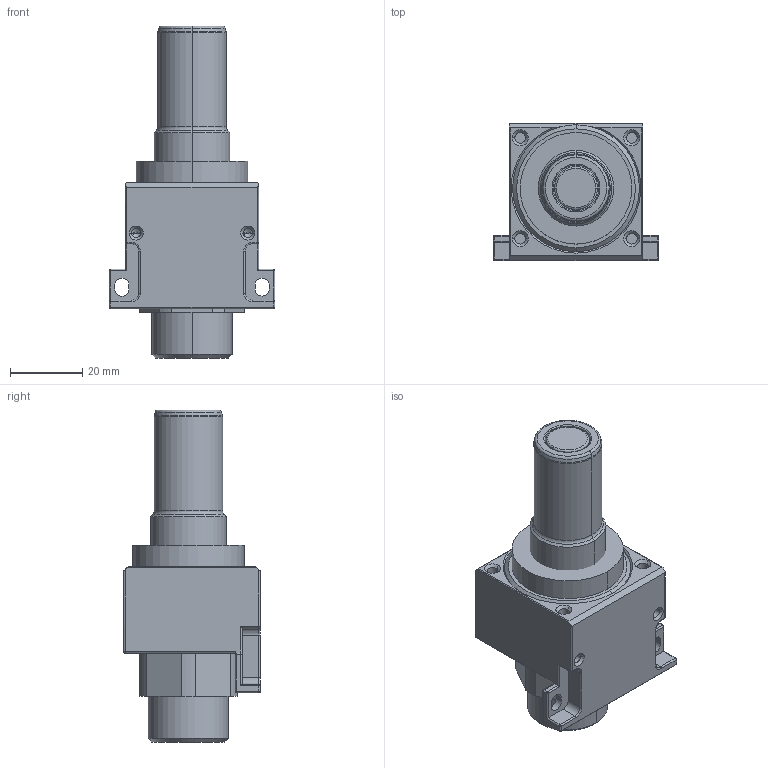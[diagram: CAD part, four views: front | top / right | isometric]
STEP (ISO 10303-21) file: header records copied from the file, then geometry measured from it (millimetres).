
FILE_DESCRIPTION((''),'2;1');
FILE_NAME('PBMC_PLUG_ASSY_SPEC_ASM','2026-03-18T12:39:48',('gpcharest'),(''),'CREO PARAMETRIC BY PTC INC, 2025234','CREO PARAMETRIC BY PTC INC, 2025234','');
FILE_SCHEMA(('CONFIG_CONTROL_DESIGN'));
Length unit declared in the file: millimetre
Products named in the file (5): PBMC_PLUG_CUP_SPEC; PBMC_PLUG_ROTATE_SPEC; PBMC_PLUG_BLOCK_SPEC; PBMC_PLUG_SWIVEL_OP-E_SPEC; PBMC_PLUG_ASSY_SPEC_ASM
Assembly tree (4 placements, depth 2):
  PBMC_PLUG_ASSY_SPEC_ASM
    PBMC_PLUG_CUP_SPEC
    PBMC_PLUG_ROTATE_SPEC
    PBMC_PLUG_BLOCK_SPEC
    PBMC_PLUG_SWIVEL_OP-E_SPEC
Bounding box: 46 x 38 x 92.2 mm (x, y, z)
Volume: 46898.3 mm3; surface area: 28100.2 mm2
Topology: 5 solids, 6 shells, 216 faces, 479 edges, 277 vertices
Faces by surface type: cylinder 92, plane 54, cone 35, torus 19, sphere 16
Entity records: 6040 total; most frequent: DIRECTION 1138, CARTESIAN_POINT 1041, ORIENTED_EDGE 942, EDGE_CURVE 471, AXIS2_PLACEMENT_3D 455, VERTEX_POINT 277, EDGE_LOOP 234, CIRCLE 230
